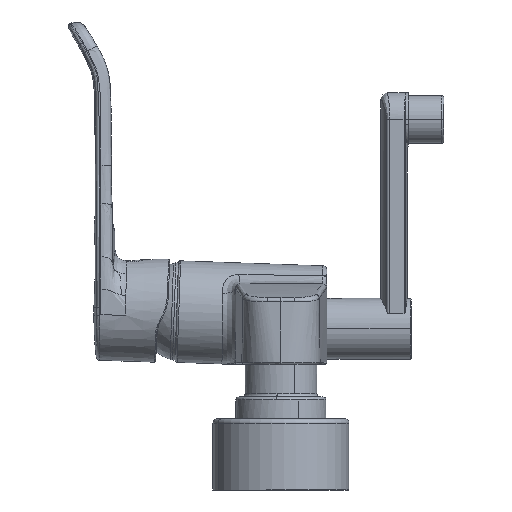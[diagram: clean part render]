
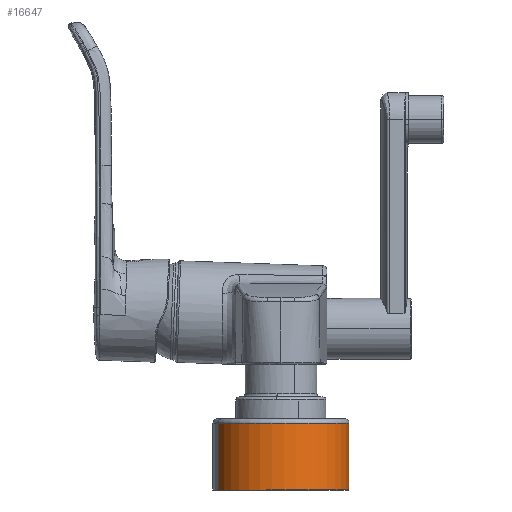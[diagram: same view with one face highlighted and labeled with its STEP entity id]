
A CAD part, left-side view. The second image highlights one B-rep face of the part: STEP entity #16647.
In plain terms, the highlighted cylindrical face has radius 32.5 mm (diameter 65 mm), a partial arc.
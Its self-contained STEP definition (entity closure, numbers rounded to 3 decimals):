
#216 = CARTESIAN_POINT ( 'NONE',  ( -74.999, 0., -26. ) ) ;
#1085 = CIRCLE ( 'NONE', #21918, 32.5 ) ;
#2440 = ORIENTED_EDGE ( 'NONE', *, *, #3955, .T. ) ;
#3431 = EDGE_CURVE ( 'NONE', #6061, #6565, #1085, .T. ) ;
#3623 = DIRECTION ( 'NONE',  ( 0., 0., -1. ) ) ;
#3697 = CARTESIAN_POINT ( 'NONE',  ( -87.409, 30.037, -26. ) ) ;
#3955 = EDGE_CURVE ( 'NONE', #6565, #4719, #7143, .T. ) ;
#4719 = VERTEX_POINT ( 'NONE', #12348 ) ;
#5130 = EDGE_CURVE ( 'NONE', #4719, #6810, #10288, .T. ) ;
#5212 = EDGE_CURVE ( 'NONE', #6061, #6810, #23688, .T. ) ;
#6061 = VERTEX_POINT ( 'NONE', #22503 ) ;
#6565 = VERTEX_POINT ( 'NONE', #10640 ) ;
#6647 = ORIENTED_EDGE ( 'NONE', *, *, #3431, .T. ) ;
#6810 = VERTEX_POINT ( 'NONE', #9704 ) ;
#7143 = LINE ( 'NONE', #3697, #21106 ) ;
#7472 = DIRECTION ( 'NONE',  ( 0.382, -0.924, 0. ) ) ;
#7492 = DIRECTION ( 'NONE',  ( 0., 0., -1. ) ) ;
#7517 = CARTESIAN_POINT ( 'NONE',  ( -74.999, 0., -28. ) ) ;
#8814 = DIRECTION ( 'NONE',  ( 0., 0., -1. ) ) ;
#8866 = DIRECTION ( 'NONE',  ( 0.382, -0.924, 0. ) ) ;
#8898 = DIRECTION ( 'NONE',  ( 0., 0., 1. ) ) ;
#8921 = CARTESIAN_POINT ( 'NONE',  ( -74.999, 0., -60. ) ) ;
#9141 = CARTESIAN_POINT ( 'NONE',  ( -62.589, -30.037, -26. ) ) ;
#9704 = CARTESIAN_POINT ( 'NONE',  ( -62.589, -30.037, -60. ) ) ;
#10091 = ORIENTED_EDGE ( 'NONE', *, *, #5212, .F. ) ;
#10288 = CIRCLE ( 'NONE', #11593, 32.5 ) ;
#10640 = CARTESIAN_POINT ( 'NONE',  ( -87.409, 30.037, -28. ) ) ;
#11593 = AXIS2_PLACEMENT_3D ( 'NONE', #8921, #8898, #8866 ) ;
#12348 = CARTESIAN_POINT ( 'NONE',  ( -87.409, 30.037, -60. ) ) ;
#13199 = DIRECTION ( 'NONE',  ( 0., 0., -1. ) ) ;
#14168 = AXIS2_PLACEMENT_3D ( 'NONE', #216, #13199, #16674 ) ;
#14567 = ORIENTED_EDGE ( 'NONE', *, *, #5130, .T. ) ;
#16372 = CYLINDRICAL_SURFACE ( 'NONE', #14168, 32.5 ) ;
#16473 = FACE_OUTER_BOUND ( 'NONE', #18213, .T. ) ;
#16647 = ADVANCED_FACE ( 'NONE', ( #16473 ), #16372, .T. ) ;
#16674 = DIRECTION ( 'NONE',  ( -0.382, 0.924, 0. ) ) ;
#18213 = EDGE_LOOP ( 'NONE', ( #10091, #6647, #2440, #14567 ) ) ;
#21106 = VECTOR ( 'NONE', #3623, 1000. ) ;
#21918 = AXIS2_PLACEMENT_3D ( 'NONE', #7517, #7492, #7472 ) ;
#22503 = CARTESIAN_POINT ( 'NONE',  ( -62.589, -30.037, -28. ) ) ;
#23663 = VECTOR ( 'NONE', #8814, 1000. ) ;
#23688 = LINE ( 'NONE', #9141, #23663 ) ;
